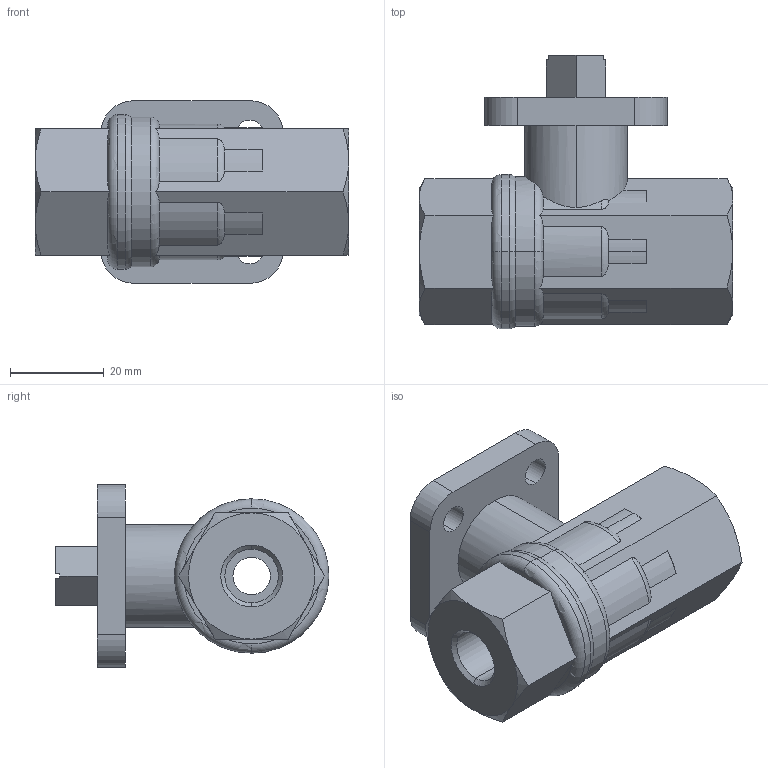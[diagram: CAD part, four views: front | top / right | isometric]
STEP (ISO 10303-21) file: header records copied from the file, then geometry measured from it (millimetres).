
FILE_DESCRIPTION (( 'STEP AP214' ), '1' );
FILE_NAME ('Ballvalve A25-DN08 G1_4.step', '2010-09-23T08:31:55', ( '' ), ( '' ), 'SwSTEP 2.0', 'SolidWorks 2010', '' );
FILE_SCHEMA (( 'AUTOMOTIVE_DESIGN' ));
Length unit declared in the file: millimetre
Products named in the file (1): Ballvalve A25-DN08 G1_4
Bounding box: 67 x 58.5 x 39 mm (x, y, z)
Volume: 52864 mm3; surface area: 14526 mm2
Topology: 1 solids, 1 shells, 114 faces, 295 edges, 188 vertices
Faces by surface type: plane 44, cylinder 40, cone 16, torus 14
Entity records: 3960 total; most frequent: CARTESIAN_POINT 1117, ORIENTED_EDGE 590, DIRECTION 568, EDGE_CURVE 295, AXIS2_PLACEMENT_3D 227, VERTEX_POINT 188, EDGE_LOOP 129, ADVANCED_FACE 114
